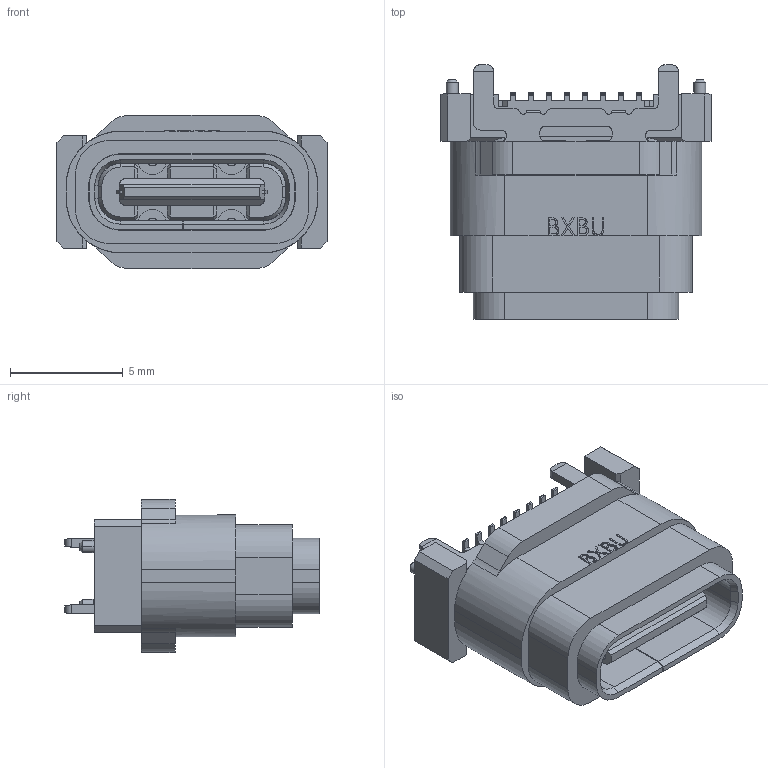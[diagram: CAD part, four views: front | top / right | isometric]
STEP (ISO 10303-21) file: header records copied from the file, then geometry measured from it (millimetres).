
FILE_DESCRIPTION (( 'STEP AP214' ), '1' );
FILE_NAME ('U5339-16PN10.0LF .STEP', '2026-07-30T07:19:15', ( '' ), ( '' ), 'SwSTEP 2.0', 'SolidWorks 2024', '' );
FILE_SCHEMA (( 'AUTOMOTIVE_DESIGN' ));
Length unit declared in the file: millimetre
Products named in the file (1): U5339-16PN10.0LF 
Bounding box: 12 x 11.3 x 6.8 mm (x, y, z)
Volume: 383.6 mm3; surface area: 1130.1 mm2
Topology: 1 solids, 65 shells, 1779 faces, 4850 edges, 3181 vertices
Faces by surface type: plane 1383, cylinder 341, cone 30, bspline 25
Entity records: 57268 total; most frequent: CARTESIAN_POINT 12541, ORIENTED_EDGE 9688, DIRECTION 8622, EDGE_CURVE 4844, LINE 3836, VECTOR 3836, VERTEX_POINT 3181, AXIS2_PLACEMENT_3D 2393
